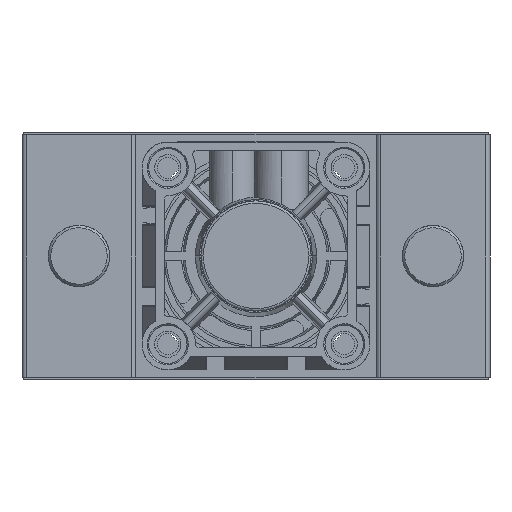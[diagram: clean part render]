
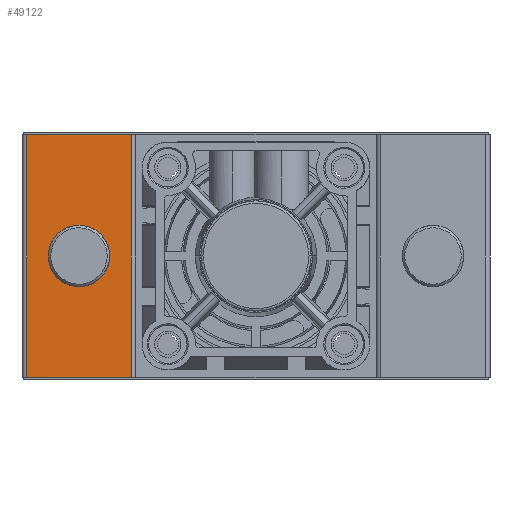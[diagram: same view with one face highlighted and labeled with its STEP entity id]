
A CAD part, front view. The second image highlights one B-rep face of the part: STEP entity #49122.
In plain terms, the highlighted planar face has unit normal (0, -1, 0).
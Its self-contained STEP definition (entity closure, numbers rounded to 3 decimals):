
#491 = EDGE_LOOP ( 'NONE', ( #4001, #11782, #48725, #23489 ) ) ;
#1398 = AXIS2_PLACEMENT_3D ( 'NONE', #18496, #2797, #30361 ) ;
#2069 = DIRECTION ( 'NONE',  ( 1., 0., 0. ) ) ;
#2226 = VECTOR ( 'NONE', #30349, 1000. ) ;
#2431 = VECTOR ( 'NONE', #35685, 1000. ) ;
#2783 = CARTESIAN_POINT ( 'NONE',  ( 44.5, -190., 99. ) ) ;
#2797 = DIRECTION ( 'NONE',  ( 0., 1., 0. ) ) ;
#3462 = LINE ( 'NONE', #2783, #2226 ) ;
#4001 = ORIENTED_EDGE ( 'NONE', *, *, #15327, .T. ) ;
#4520 = EDGE_CURVE ( 'NONE', #29547, #17731, #45669, .T. ) ;
#4727 = EDGE_CURVE ( 'NONE', #29547, #18085, #6706, .T. ) ;
#6706 = LINE ( 'NONE', #29635, #48749 ) ;
#7662 = CARTESIAN_POINT ( 'NONE',  ( 23.25, -190., 49.5 ) ) ;
#8192 = EDGE_CURVE ( 'NONE', #23871, #37250, #10207, .T. ) ;
#10207 = CIRCLE ( 'NONE', #19795, 12.5 ) ;
#11154 = FACE_BOUND ( 'NONE', #28892, .T. ) ;
#11650 = DIRECTION ( 'NONE',  ( 0., 0., 1. ) ) ;
#11782 = ORIENTED_EDGE ( 'NONE', *, *, #34652, .F. ) ;
#12097 = CARTESIAN_POINT ( 'NONE',  ( 2., -190., 99. ) ) ;
#13042 = ORIENTED_EDGE ( 'NONE', *, *, #26136, .F. ) ;
#15327 = EDGE_CURVE ( 'NONE', #17731, #19500, #48901, .T. ) ;
#17731 = VERTEX_POINT ( 'NONE', #39106 ) ;
#18085 = VERTEX_POINT ( 'NONE', #21694 ) ;
#18496 = CARTESIAN_POINT ( 'NONE',  ( 44.5, -190., 99. ) ) ;
#19500 = VERTEX_POINT ( 'NONE', #45011 ) ;
#19795 = AXIS2_PLACEMENT_3D ( 'NONE', #7662, #35232, #11650 ) ;
#20859 = DIRECTION ( 'NONE',  ( 0., -1., 0. ) ) ;
#21656 = FACE_OUTER_BOUND ( 'NONE', #491, .T. ) ;
#21694 = CARTESIAN_POINT ( 'NONE',  ( 44.5, -190., 99. ) ) ;
#23062 = DIRECTION ( 'NONE',  ( 1., 0., 0. ) ) ;
#23349 = CARTESIAN_POINT ( 'NONE',  ( 23.25, -190., 62. ) ) ;
#23489 = ORIENTED_EDGE ( 'NONE', *, *, #4520, .T. ) ;
#23871 = VERTEX_POINT ( 'NONE', #50350 ) ;
#25115 = ORIENTED_EDGE ( 'NONE', *, *, #8192, .F. ) ;
#25620 = CIRCLE ( 'NONE', #36228, 12.5 ) ;
#26136 = EDGE_CURVE ( 'NONE', #37250, #23871, #25620, .T. ) ;
#26431 = PLANE ( 'NONE',  #1398 ) ;
#28892 = EDGE_LOOP ( 'NONE', ( #25115, #13042 ) ) ;
#29547 = VERTEX_POINT ( 'NONE', #42787 ) ;
#29635 = CARTESIAN_POINT ( 'NONE',  ( 44.5, -190., 99. ) ) ;
#30349 = DIRECTION ( 'NONE',  ( 0., 0., -1. ) ) ;
#30361 = DIRECTION ( 'NONE',  ( -1., 0., 0. ) ) ;
#34652 = EDGE_CURVE ( 'NONE', #18085, #19500, #3462, .T. ) ;
#35232 = DIRECTION ( 'NONE',  ( 0., -1., 0. ) ) ;
#35685 = DIRECTION ( 'NONE',  ( 0., 0., -1. ) ) ;
#36228 = AXIS2_PLACEMENT_3D ( 'NONE', #44502, #20859, #48494 ) ;
#37250 = VERTEX_POINT ( 'NONE', #23349 ) ;
#38739 = CARTESIAN_POINT ( 'NONE',  ( 44.5, -190., 0. ) ) ;
#39106 = CARTESIAN_POINT ( 'NONE',  ( 2., -190., 0. ) ) ;
#42787 = CARTESIAN_POINT ( 'NONE',  ( 2., -190., 99. ) ) ;
#44502 = CARTESIAN_POINT ( 'NONE',  ( 23.25, -190., 49.5 ) ) ;
#45011 = CARTESIAN_POINT ( 'NONE',  ( 44.5, -190., 0. ) ) ;
#45669 = LINE ( 'NONE', #12097, #2431 ) ;
#46426 = VECTOR ( 'NONE', #23062, 1000. ) ;
#48494 = DIRECTION ( 'NONE',  ( 0., 0., 1. ) ) ;
#48725 = ORIENTED_EDGE ( 'NONE', *, *, #4727, .F. ) ;
#48749 = VECTOR ( 'NONE', #2069, 1000. ) ;
#48901 = LINE ( 'NONE', #38739, #46426 ) ;
#49122 = ADVANCED_FACE ( 'NONE', ( #11154, #21656 ), #26431, .F. ) ;
#50350 = CARTESIAN_POINT ( 'NONE',  ( 23.25, -190., 37. ) ) ;
